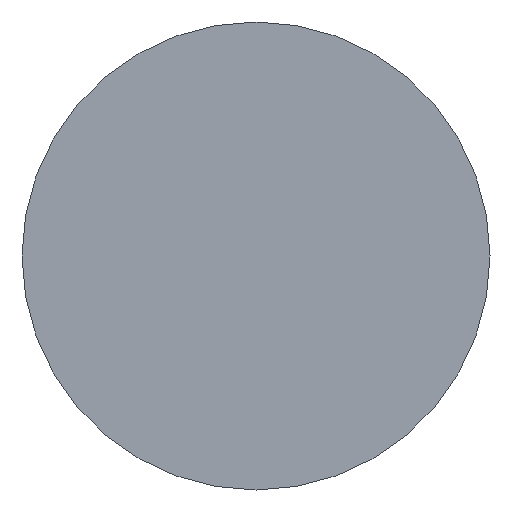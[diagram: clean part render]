
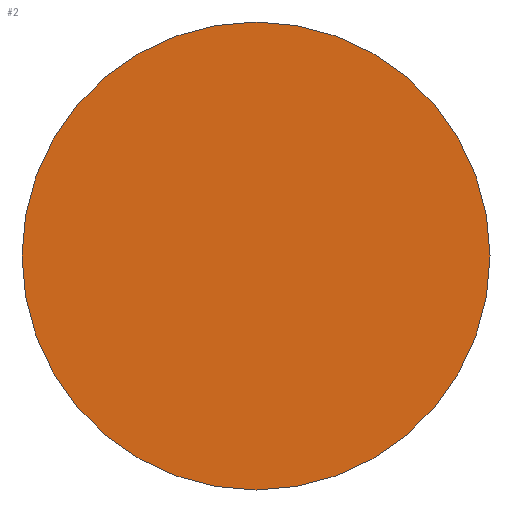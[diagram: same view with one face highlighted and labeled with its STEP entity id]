
A CAD part, left-side view. The second image highlights one B-rep face of the part: STEP entity #2.
In plain terms, the highlighted planar face has unit normal (-1, 0, 0).
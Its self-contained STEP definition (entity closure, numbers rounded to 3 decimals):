
#2 = ADVANCED_FACE ( 'NONE', ( #155 ), #267, .T. ) ;
#22 = VERTEX_POINT ( 'NONE', #98 ) ;
#25 = DIRECTION ( 'NONE',  ( -1., 0., 0. ) ) ;
#59 = DIRECTION ( 'NONE',  ( 0., -1., 0. ) ) ;
#67 = CIRCLE ( 'NONE', #235, 16. ) ;
#70 = CARTESIAN_POINT ( 'NONE',  ( 0., 0., 0. ) ) ;
#79 = AXIS2_PLACEMENT_3D ( 'NONE', #236, #192, #230 ) ;
#80 = CARTESIAN_POINT ( 'NONE',  ( 0., 0., 0. ) ) ;
#84 = ORIENTED_EDGE ( 'NONE', *, *, #154, .F. ) ;
#91 = DIRECTION ( 'NONE',  ( 0., 1., 0. ) ) ;
#98 = CARTESIAN_POINT ( 'NONE',  ( 0., -16., 0. ) ) ;
#150 = VERTEX_POINT ( 'NONE', #195 ) ;
#154 = EDGE_CURVE ( 'NONE', #150, #22, #67, .T. ) ;
#155 = FACE_OUTER_BOUND ( 'NONE', #194, .T. ) ;
#185 = ORIENTED_EDGE ( 'NONE', *, *, #188, .F. ) ;
#188 = EDGE_CURVE ( 'NONE', #22, #150, #241, .T. ) ;
#192 = DIRECTION ( 'NONE',  ( 1., 0., 0. ) ) ;
#194 = EDGE_LOOP ( 'NONE', ( #84, #185 ) ) ;
#195 = CARTESIAN_POINT ( 'NONE',  ( 0., 16., 0. ) ) ;
#198 = AXIS2_PLACEMENT_3D ( 'NONE', #80, #25, #59 ) ;
#201 = DIRECTION ( 'NONE',  ( 1., 0., 0. ) ) ;
#230 = DIRECTION ( 'NONE',  ( 0., 1., 0. ) ) ;
#235 = AXIS2_PLACEMENT_3D ( 'NONE', #70, #201, #91 ) ;
#236 = CARTESIAN_POINT ( 'NONE',  ( 0., 0., 0. ) ) ;
#241 = CIRCLE ( 'NONE', #79, 16. ) ;
#267 = PLANE ( 'NONE',  #198 ) ;
